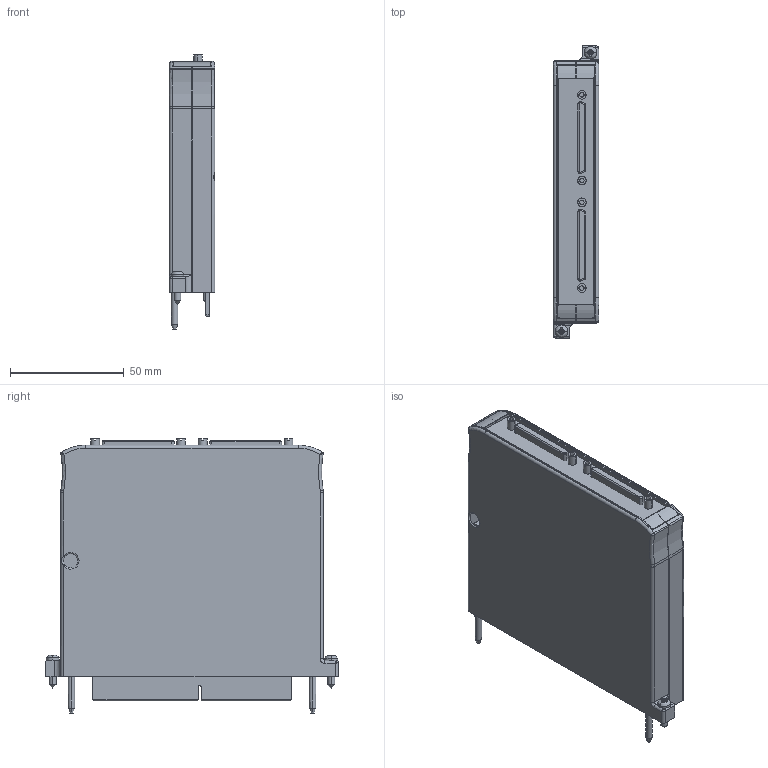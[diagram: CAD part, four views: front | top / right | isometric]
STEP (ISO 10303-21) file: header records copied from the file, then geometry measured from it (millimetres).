
FILE_DESCRIPTION((''),'2;1');
FILE_NAME('CU_NI-FLEXRIO-6585','2009-06-01T',('brucep'),(''),'PRO/ENGINEER BY PARAMETRIC TECHNOLOGY CORPORATION, 2006300','PRO/ENGINEER BY PARAMETRIC TECHNOLOGY CORPORATION, 2006300','');
FILE_SCHEMA(('CONFIG_CONTROL_DESIGN'));
Products named in the file (1): CU_NI-FLEXRIO-6585
Bounding box: 20.02 x 128.65 x 120.5 mm (x, y, z)
Surface area: 101829.7 mm2 (no closed solid volume)
Topology: 0 solids, 315 shells, 2899 faces, 8629 edges, 5823 vertices
Faces by surface type: plane 2258, cylinder 465, bspline 70, cone 68, torus 26, sphere 12
Entity records: 96316 total; most frequent: CARTESIAN_POINT 21012, DIRECTION 15157, ORIENTED_EDGE 14320, EDGE_CURVE 8617, VECTOR 7171, LINE 7171, VERTEX_POINT 5823, AXIS2_PLACEMENT_3D 3993
